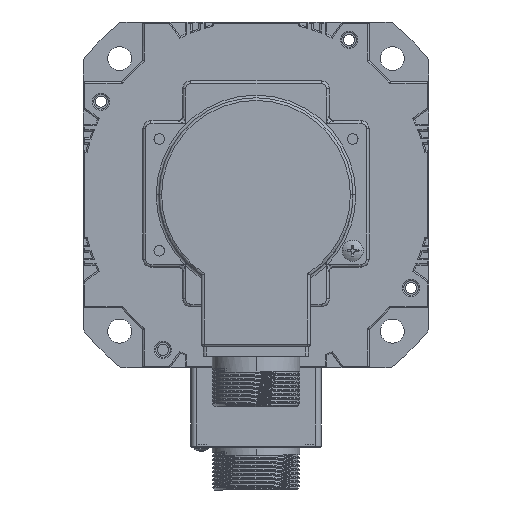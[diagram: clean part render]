
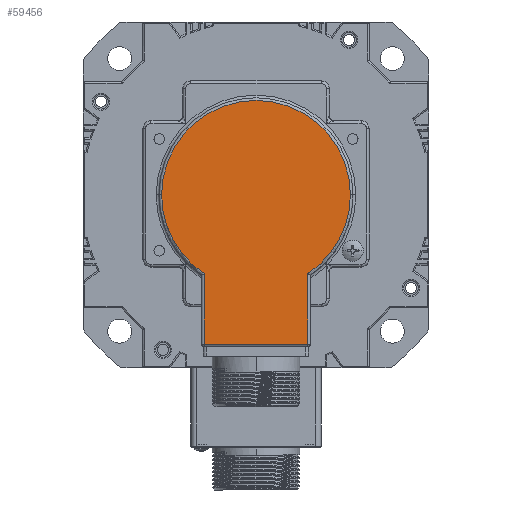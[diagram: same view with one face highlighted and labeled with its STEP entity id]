
A CAD part, front view. The second image highlights one B-rep face of the part: STEP entity #59456.
In plain terms, the highlighted planar face has unit normal (0, -1, 0) as drawn and (0, 0, -1) by its records, which use the part's own axes.
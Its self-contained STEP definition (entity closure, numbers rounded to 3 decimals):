
#462 = DIRECTION ( 'NONE',  ( -1., 0., 0. ) ) ;
#4327 = CARTESIAN_POINT ( 'NONE',  ( -19.5, 56.15, -33. ) ) ;
#4931 = DIRECTION ( 'NONE',  ( 0., 1., 0. ) ) ;
#5307 = CIRCLE ( 'NONE', #16444, 35.5 ) ;
#5799 = VECTOR ( 'NONE', #52646, 1000. ) ;
#9627 = VERTEX_POINT ( 'NONE', #28354 ) ;
#10172 = FACE_OUTER_BOUND ( 'NONE', #11029, .T. ) ;
#10682 = LINE ( 'NONE', #24111, #13210 ) ;
#11029 = EDGE_LOOP ( 'NONE', ( #21762, #51512, #52212, #15434, #28737, #18864 ) ) ;
#11580 = CARTESIAN_POINT ( 'NONE',  ( 0., 0., -33. ) ) ;
#11863 = VERTEX_POINT ( 'NONE', #21243 ) ;
#13074 = VECTOR ( 'NONE', #4931, 1000. ) ;
#13210 = VECTOR ( 'NONE', #39723, 1000. ) ;
#13525 = VERTEX_POINT ( 'NONE', #4327 ) ;
#14987 = CARTESIAN_POINT ( 'NONE',  ( 0., 0., -33. ) ) ;
#15434 = ORIENTED_EDGE ( 'NONE', *, *, #70006, .T. ) ;
#16444 = AXIS2_PLACEMENT_3D ( 'NONE', #11580, #44394, #61197 ) ;
#17442 = DIRECTION ( 'NONE',  ( -1., 0., 0. ) ) ;
#18085 = VERTEX_POINT ( 'NONE', #38669 ) ;
#18864 = ORIENTED_EDGE ( 'NONE', *, *, #51813, .T. ) ;
#20175 = CIRCLE ( 'NONE', #39140, 35.5 ) ;
#20698 = VERTEX_POINT ( 'NONE', #26247 ) ;
#21243 = CARTESIAN_POINT ( 'NONE',  ( 19.5, 56.15, -33. ) ) ;
#21762 = ORIENTED_EDGE ( 'NONE', *, *, #49845, .T. ) ;
#24111 = CARTESIAN_POINT ( 'NONE',  ( 19.5, 30.199, -33. ) ) ;
#25883 = VERTEX_POINT ( 'NONE', #60078 ) ;
#26247 = CARTESIAN_POINT ( 'NONE',  ( 35.5, 0., -33. ) ) ;
#28153 = EDGE_CURVE ( 'NONE', #20698, #25883, #20175, .T. ) ;
#28354 = CARTESIAN_POINT ( 'NONE',  ( -19.5, 29.665, -33. ) ) ;
#28737 = ORIENTED_EDGE ( 'NONE', *, *, #28153, .T. ) ;
#33498 = AXIS2_PLACEMENT_3D ( 'NONE', #14987, #42367, #57760 ) ;
#36909 = PLANE ( 'NONE',  #33498 ) ;
#37774 = DIRECTION ( 'NONE',  ( 0., 0., -1. ) ) ;
#38273 = CIRCLE ( 'NONE', #54831, 35.5 ) ;
#38410 = EDGE_CURVE ( 'NONE', #11863, #18085, #10682, .T. ) ;
#38669 = CARTESIAN_POINT ( 'NONE',  ( 19.5, 29.665, -33. ) ) ;
#38952 = CARTESIAN_POINT ( 'NONE',  ( 0., 0., -33. ) ) ;
#39140 = AXIS2_PLACEMENT_3D ( 'NONE', #64953, #37774, #462 ) ;
#39723 = DIRECTION ( 'NONE',  ( 0., -1., 0. ) ) ;
#42367 = DIRECTION ( 'NONE',  ( 0., 0., -1. ) ) ;
#43477 = LINE ( 'NONE', #69628, #13074 ) ;
#44394 = DIRECTION ( 'NONE',  ( 0., 0., -1. ) ) ;
#49845 = EDGE_CURVE ( 'NONE', #9627, #13525, #43477, .T. ) ;
#51512 = ORIENTED_EDGE ( 'NONE', *, *, #55648, .T. ) ;
#51813 = EDGE_CURVE ( 'NONE', #25883, #9627, #5307, .T. ) ;
#51968 = CARTESIAN_POINT ( 'NONE',  ( 20.5, 56.15, -33. ) ) ;
#52212 = ORIENTED_EDGE ( 'NONE', *, *, #38410, .T. ) ;
#52646 = DIRECTION ( 'NONE',  ( 1., 0., 0. ) ) ;
#54831 = AXIS2_PLACEMENT_3D ( 'NONE', #38952, #65934, #17442 ) ;
#55648 = EDGE_CURVE ( 'NONE', #13525, #11863, #63258, .T. ) ;
#57760 = DIRECTION ( 'NONE',  ( -1., 0., 0. ) ) ;
#59456 = ADVANCED_FACE ( 'NONE', ( #10172 ), #36909, .T. ) ;
#60078 = CARTESIAN_POINT ( 'NONE',  ( -35.5, 0., -33. ) ) ;
#61197 = DIRECTION ( 'NONE',  ( -1., 0., 0. ) ) ;
#63258 = LINE ( 'NONE', #51968, #5799 ) ;
#64953 = CARTESIAN_POINT ( 'NONE',  ( 0., 0., -33. ) ) ;
#65934 = DIRECTION ( 'NONE',  ( 0., 0., -1. ) ) ;
#69628 = CARTESIAN_POINT ( 'NONE',  ( -19.5, 57.15, -33. ) ) ;
#70006 = EDGE_CURVE ( 'NONE', #18085, #20698, #38273, .T. ) ;
